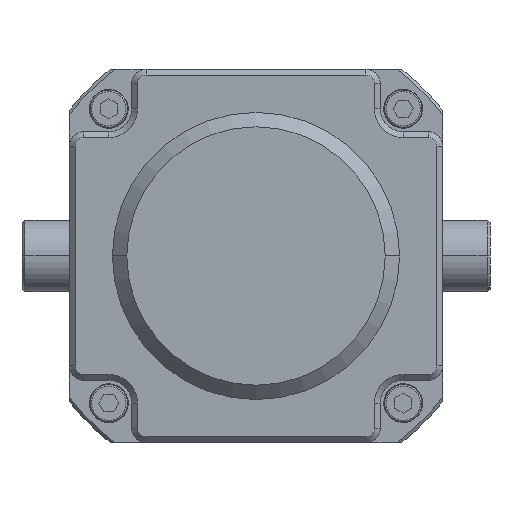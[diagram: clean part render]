
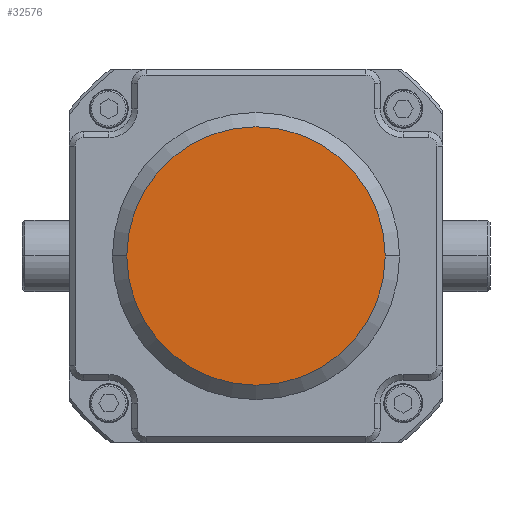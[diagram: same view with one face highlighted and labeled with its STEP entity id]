
A CAD part, front view. The second image highlights one B-rep face of the part: STEP entity #32576.
In plain terms, the highlighted planar face has unit normal (0, -1, 0) as drawn and (0, 1, 0) by its records, which use the part's own axes.
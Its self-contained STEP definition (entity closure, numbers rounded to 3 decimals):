
#30497=CARTESIAN_POINT('',(0.,166.,0.));
#30498=DIRECTION('',(0.,1.,0.));
#30499=DIRECTION('',(-1.,0.,0.));
#30500=AXIS2_PLACEMENT_3D('',#30497,#30498,#30499);
#30502=CARTESIAN_POINT('',(0.,166.,0.));
#30503=DIRECTION('',(0.,1.,0.));
#30504=DIRECTION('',(1.,0.,0.));
#30505=AXIS2_PLACEMENT_3D('',#30502,#30503,#30504);
#31122=CARTESIAN_POINT('',(-45.,166.,0.));
#31123=CARTESIAN_POINT('',(45.,166.,0.));
#31124=VERTEX_POINT('',#31122);
#31125=VERTEX_POINT('',#31123);
#32566=CARTESIAN_POINT('',(0.,166.,0.));
#32567=DIRECTION('',(0.,1.,0.));
#32568=DIRECTION('',(1.,0.,0.));
#32569=AXIS2_PLACEMENT_3D('',#32566,#32567,#32568);
#32570=PLANE('',#32569);
#32572=ORIENTED_EDGE('',*,*,#32571,.F.);
#32573=ORIENTED_EDGE('',*,*,#32556,.F.);
#32574=EDGE_LOOP('',(#32572,#32573));
#32575=FACE_OUTER_BOUND('',#32574,.F.);
#32576=ADVANCED_FACE('',(#32575),#32570,.T.);
#30501=CIRCLE('',#30500,45.);
#30506=CIRCLE('',#30505,45.);
#32556=EDGE_CURVE('',#31125,#31124,#30506,.T.);
#32571=EDGE_CURVE('',#31124,#31125,#30501,.T.);
